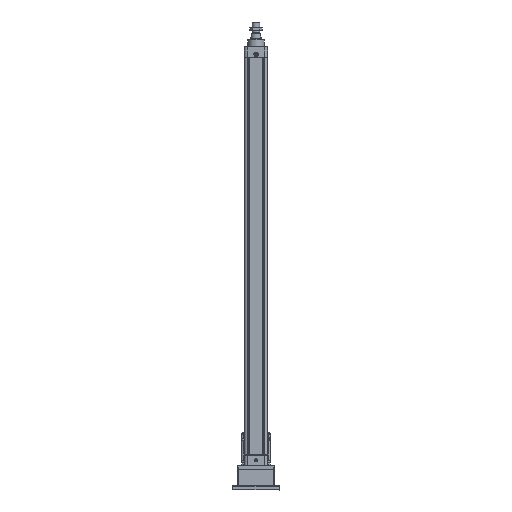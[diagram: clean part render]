
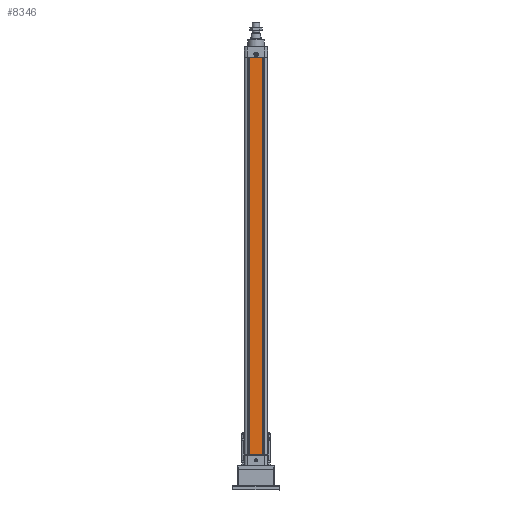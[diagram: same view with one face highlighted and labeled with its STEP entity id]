
A CAD part, top view. The second image highlights one B-rep face of the part: STEP entity #8346.
In plain terms, the highlighted planar face has unit normal (0, 0, 1).
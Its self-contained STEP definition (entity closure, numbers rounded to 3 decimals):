
#3327=DIRECTION('',(1.,0.,0.));
#3328=VECTOR('',#3327,33.382);
#3329=CARTESIAN_POINT('',(-16.691,-551.5,32.));
#3330=LINE('',#3329,#3328);
#3988=DIRECTION('',(1.,0.,0.));
#3989=VECTOR('',#3988,33.382);
#3990=CARTESIAN_POINT('',(-16.691,551.5,32.));
#3991=LINE('',#3990,#3989);
#4911=DIRECTION('',(0.,1.,0.));
#4912=VECTOR('',#4911,1103.);
#4913=CARTESIAN_POINT('',(16.691,-551.5,32.));
#4914=LINE('',#4913,#4912);
#4915=DIRECTION('',(0.,-1.,0.));
#4916=VECTOR('',#4915,1103.);
#4917=CARTESIAN_POINT('',(-16.691,551.5,32.));
#4918=LINE('',#4917,#4916);
#5495=CARTESIAN_POINT('',(16.691,551.5,32.));
#5497=VERTEX_POINT('',#5495);
#5501=CARTESIAN_POINT('',(16.691,-551.5,32.));
#5502=VERTEX_POINT('',#5501);
#5519=CARTESIAN_POINT('',(-16.691,-551.5,32.));
#5521=VERTEX_POINT('',#5519);
#5525=CARTESIAN_POINT('',(-16.691,551.5,32.));
#5526=VERTEX_POINT('',#5525);
#8333=CARTESIAN_POINT('',(-32.,-551.5,32.));
#8334=DIRECTION('',(0.,0.,1.));
#8335=DIRECTION('',(1.,0.,0.));
#8336=AXIS2_PLACEMENT_3D('',#8333,#8334,#8335);
#8337=PLANE('',#8336);
#8339=ORIENTED_EDGE('',*,*,#8338,.F.);
#8340=ORIENTED_EDGE('',*,*,#6084,.F.);
#8342=ORIENTED_EDGE('',*,*,#8341,.F.);
#8343=ORIENTED_EDGE('',*,*,#6553,.T.);
#8344=EDGE_LOOP('',(#8339,#8340,#8342,#8343));
#8345=FACE_OUTER_BOUND('',#8344,.F.);
#8346=ADVANCED_FACE('',(#8345),#8337,.T.);
#6084=EDGE_CURVE('',#5521,#5502,#3330,.T.);
#6553=EDGE_CURVE('',#5526,#5497,#3991,.T.);
#8338=EDGE_CURVE('',#5502,#5497,#4914,.T.);
#8341=EDGE_CURVE('',#5526,#5521,#4918,.T.);
